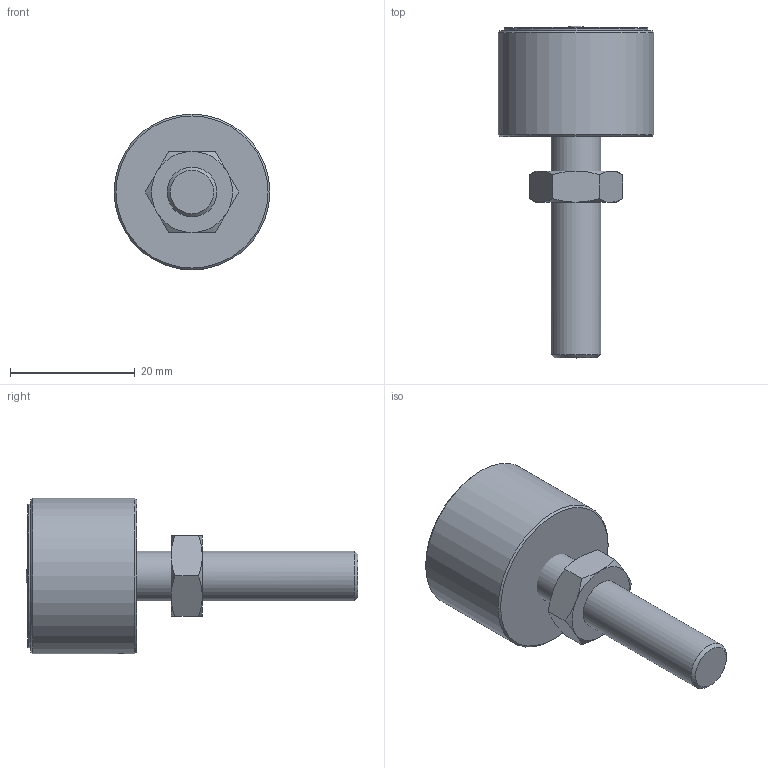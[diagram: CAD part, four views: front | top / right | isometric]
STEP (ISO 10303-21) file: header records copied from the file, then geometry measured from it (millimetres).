
FILE_DESCRIPTION(/* description */ ('PERNO','CAx-IF Rec.Pracs.---Representation and Presentation of Product Manufacturing Information (PMI)---3.8---2014-02-18'),/* implementation_level */ '2;1');
FILE_NAME(/* name */ 'E:\Users\CAD5\sito AP\scarica_file\3d\25.00.stp',/* time_stamp */ '2016-08-30T12:28:39+02:00',/* author */ ('CAD5'),/* organization */ (''),/* preprocessor_version */ 'ST-DEVELOPER v16.1',/* originating_system */ 'Autodesk Inventor 2016',/* authorisation */ '2985 mm^3');
FILE_SCHEMA (('AP242_MANAGED_MODEL_BASED_3D_ENGINEERING_MIM_LF { 1 0 10303 442 1 1 4 }'));
Length unit declared in the file: millimetre
Products named in the file (8): 23.51; 25.01; HKCM_r23x13x06ni-n40; INSERTO OR Ø2.62x2; VITE STEI M3 x 6 - 0,5 UNI 5923; UNI 5589 basso - M8 - 1,25; 23.02; 25.00
Assembly tree (7 placements, depth 2):
  25.00
    23.51
    25.01
    HKCM_r23x13x06ni-n40
    INSERTO OR Ø2.62x2
    VITE STEI M3 x 6 - 0,5 UNI 5923
    UNI 5589 basso - M8 - 1,25
    23.02
Bounding box: 25 x 53.29 x 25 mm (x, y, z)
Volume: 10131.3 mm3; surface area: 6534.7 mm2
Topology: 7 solids, 7 shells, 68 faces, 140 edges, 85 vertices
Faces by surface type: plane 27, cone 23, cylinder 14, torus 3, sphere 1
Full cylindrical faces by diameter (mm): 2.459 x1, 2.62 x1, 3 x2, 4 x1, 5 x1, 6.647 x1, 6.917 x1, 8 x1, 10.5 x1, 13 x1, 23 x1, 24 x1, 25 x1
Entity records: 1836 total; most frequent: CARTESIAN_POINT 455, DIRECTION 280, ORIENTED_EDGE 202, AXIS2_PLACEMENT_3D 131, EDGE_LOOP 108, EDGE_CURVE 101, VERTEX_POINT 77, ADVANCED_FACE 68
